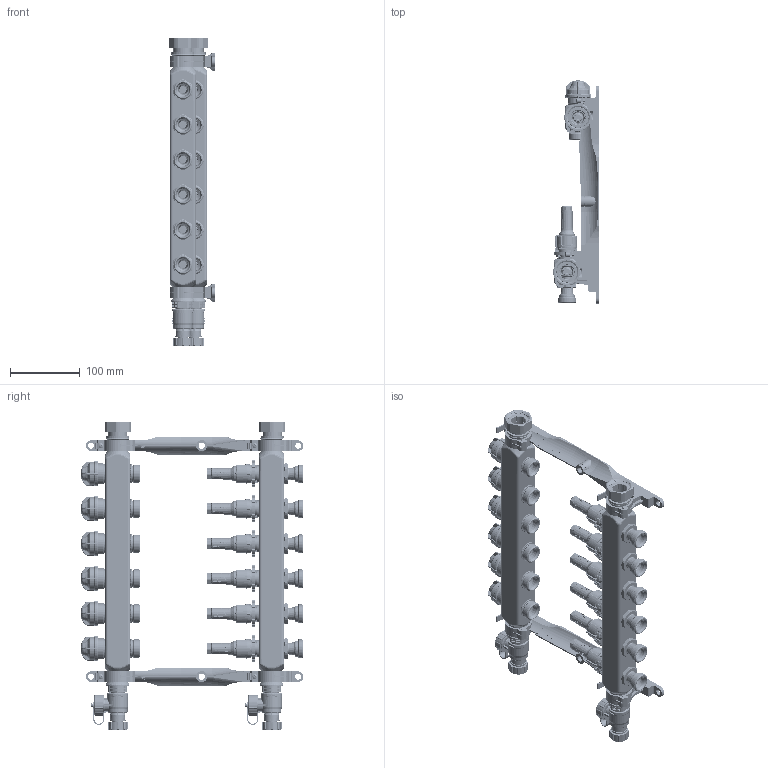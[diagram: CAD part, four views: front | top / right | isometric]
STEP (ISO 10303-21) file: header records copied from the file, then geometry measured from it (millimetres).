
FILE_DESCRIPTION (( 'STEP AP214' ), '1' );
FILE_NAME ('ProCalida_VA_1C_6obiegow.STEP', '2023-10-24T09:15:54', ( '' ), ( '' ), 'SwSTEP 2.0', 'SolidWorks 2022', '' );
FILE_SCHEMA (( 'AUTOMOTIVE_DESIGN' ));
Length unit declared in the file: millimetre
Products named in the file (47): Hubvtl. M30x1,5AGxG1_2 KST VT gelb_05 01 01 60_0; Stellmutter M30x1,5 IG grau_05 01 000183; ISO 7049-ST3.5x25-C-H_Blechschrauben_0_3; ISO 7049-ST3.5x25-C-H_Blechschrauben_0_4; 05 01 000428_Handrad Caradesign schwarz DFM; LAGER_05 01 000501; Verschlussscheibe_05 01 000213_0; DFM 0,5-4 l_min G1_2 KST EK_05 01 00 01; O-Ring _X_F818x2 EPDM_801 000 0177_2; Einschraubst. G3_4xG1_2x40mm vern._05 02 000007; 05 01000235_Einschraubk_X_F6rper G1_2; O-RING 21,82X3,53_801 000 0127; Grundk_X_F6rper KFE-Hahn G3_4_05 01 000320_0; 05 01 000037_Haltelasche f_X_FCr Endmodul_0; Anschluss-Flach 3_4 Ni_011 030.115; Wandhalter _X_F832_05 01 000265_2; T_X_DCLLE-FLACH_011 030.016; Einstellring Verteiler, schwarz_05 01 000181; mid; _X_DCberwurfmutter G1_05 00 350408; Bewegung_Baugruppe_2; Ventilk_X_F6rper M30x1,5 G1_2 AG Kst._05 01 000900; 05 01 000033_Verschlussdeckel G3_4 mit Zapfen_0; Verteiler oben_Baugruppe_2; BEDRUCKUNG; Lasche oben_2; bot; Lasche unten_2; A; Anschlussnippel G1_2 - G3_4_Baugruppe; LASCHE; LASCHE_2; 801 018 3200_O-Ring _X_F818,0x3,0mm EPDM 70_X_B15 IRHD perox; SCHRAUBKAPPE BEDRUCKT_05 01 000227; SCHEIBE_011 030.018; SCHRAUBKAPPE_05 01 000227; ProCalida_VA_1C_6obiegow; 05 01 000945_Geh_X_E4use KFE G3_4 ohne Logoaufn.; 05 01 000035_Verschlussschraube; 05 02 00 43_Verschlussdeckel G3_4 mit Lasche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
Assembly tree (82 placements, depth 6):
  ProCalida_VA_1C_6obiegow
    korp_end  x4
    mid  x8
    LAGER_05 01 000501  x4
    Wandhalter _X_F832_05 01 000265_2  x2
      Lasche oben_2
        Lasche oben_2
        ISO 7049-ST3.5x25-C-H_Blechschrauben_0_3
      Lasche unten_2
        Lasche unten_2
        ISO 7049-ST3.5x25-C-H_Blechschrauben_0_4
      Wandhalter K_X_F6rper _X_F832_05 01 000265_2
    Anschluss-Flach 3_4 Ni_011 030.115  x2
      T_X_DCLLE-FLACH_011 030.016
      SCHEIBE_011 030.018
      O-RING 21,82X3,53_801 000 0127
      _X_DCberwurfmutter G1_05 00 350408
    DFM 0,5-4 l_min G1_2 KST EK_05 01 00 01  x6
      Bewegung_Baugruppe_2
        SCHRAUBKAPPE BEDRUCKT_05 01 000227
          BEDRUCKUNG
          SCHRAUBKAPPE_05 01 000227
      O-RING_801 000 0177
      Einstellring Verteiler, schwarz_05 01 000181
      05 01 000428_Handrad Caradesign schwarz DFM
      05 01000235_Einschraubk_X_F6rper G1_2
    Verteiler oben_Baugruppe_2  x2
      Lagerring _X_F826x2,4 EPDM 50_05 01 000501
      05 01 02 16_KFE-Hahn G3_4 Kunststoff o. Logoaufnahme_0
        05 02 00 43_Verschlussdeckel G3_4 mit Lasche
          05 01 000037_Haltelasche f_X_FCr Endmodul_0
            LASCHE
            LASCHE_2
            A
          05 01 000033_Verschlussdeckel G3_4 mit Zapfen_0
          801 018 3200_O-Ring _X_F818,0x3,0mm EPDM 70_X_B15 IRHD perox
        05 01 000035_Verschlussschraube
        Grundk_X_F6rper KFE-Hahn G3_4_05 01 000320_0
        05 01 000945_Geh_X_E4use KFE G3_4 ohne Logoaufn.
    Hubvtl. M30x1,5AGxG1_2 KST VT gelb_05 01 01 60_0  x6
      Verschlussscheibe_05 01 000213_0
      Stellmutter M30x1,5 IG grau_05 01 000183
      Ventilk_X_F6rper M30x1,5 G1_2 AG Kst._05 01 000900
    bot  x6
    Anschlussnippel G1_2 - G3_4_Baugruppe  x6
      Einschraubst. G3_4xG1_2x40mm vern._05 02 000007
      O-Ring _X_F818x2 EPDM_801 000 0177_2
Bounding box: 65.98 x 318.7 x 441.22 mm (x, y, z)
Volume: 629376 mm3; surface area: 617675.1 mm2
Topology: 508 solids, 514 shells, 16914 faces, 44298 edges, 28580 vertices
Faces by surface type: plane 7330, cylinder 4456, cone 3042, bspline 2026, torus 60
Entity records: 210390 total; most frequent: CARTESIAN_POINT 81040, ORIENTED_EDGE 20496, DIRECTION 17868, EDGE_CURVE 10248, AXIS2_PLACEMENT_3D 6915, VERTEX_POINT 6636, EDGE_LOOP 4104, VECTOR 4038
